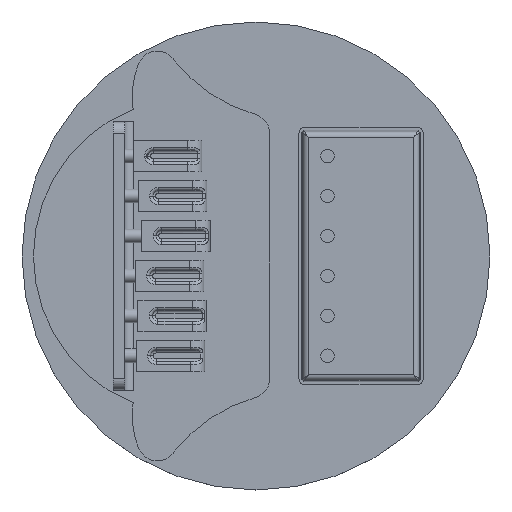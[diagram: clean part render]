
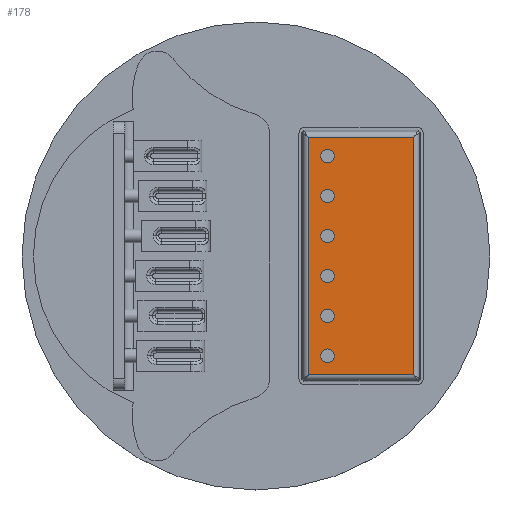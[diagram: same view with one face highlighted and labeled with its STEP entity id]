
A CAD part, top view. The second image highlights one B-rep face of the part: STEP entity #178.
In plain terms, the highlighted planar face has unit normal (0, 0, 1).
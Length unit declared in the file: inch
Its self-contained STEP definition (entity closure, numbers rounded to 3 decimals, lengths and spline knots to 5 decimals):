
#35 = DIRECTION ( 'NONE',  ( 0., 0., 1. ) ) ;
#133 = EDGE_LOOP ( 'NONE', ( #573, #3216, #6700, #1994 ) ) ;
#178 = ADVANCED_FACE ( 'NONE', ( #6473, #1285, #1166, #2537, #6802, #8448, #5037 ), #4606, .T. ) ;
#198 = DIRECTION ( 'NONE',  ( 1., 0., 0. ) ) ;
#248 = AXIS2_PLACEMENT_3D ( 'NONE', #3702, #6252, #2282 ) ;
#262 = CARTESIAN_POINT ( 'NONE',  ( 0.05448, 1.36869, 0.25 ) ) ;
#270 = CARTESIAN_POINT ( 'NONE',  ( 0.05448, 1.36869, 0.25 ) ) ;
#295 = CARTESIAN_POINT ( 'NONE',  ( 0.05448, 0.93119, 0.25 ) ) ;
#326 = VERTEX_POINT ( 'NONE', #5420 ) ;
#339 = VERTEX_POINT ( 'NONE', #2686 ) ;
#375 = VERTEX_POINT ( 'NONE', #2835 ) ;
#399 = CARTESIAN_POINT ( 'NONE',  ( 0.12948, -0.38131, 0.25 ) ) ;
#484 = CARTESIAN_POINT ( 'NONE',  ( -0.02052, -0.81881, 0.25 ) ) ;
#555 = CARTESIAN_POINT ( 'NONE',  ( 0.99705, 1.57627, 0.25 ) ) ;
#557 = DIRECTION ( 'NONE',  ( 1., 0., 0. ) ) ;
#563 = DIRECTION ( 'NONE',  ( 1., 0., 0. ) ) ;
#573 = ORIENTED_EDGE ( 'NONE', *, *, #5916, .T. ) ;
#608 = CIRCLE ( 'NONE', #4228, 0.075 ) ;
#612 = DIRECTION ( 'NONE',  ( 1., 0., 0. ) ) ;
#619 = EDGE_CURVE ( 'NONE', #375, #3455, #6889, .T. ) ;
#675 = ORIENTED_EDGE ( 'NONE', *, *, #4061, .F. ) ;
#853 = LINE ( 'NONE', #7019, #2427 ) ;
#900 = DIRECTION ( 'NONE',  ( 0., 0., 1. ) ) ;
#936 = CIRCLE ( 'NONE', #7269, 0.075 ) ;
#962 = AXIS2_PLACEMENT_3D ( 'NONE', #7861, #6599, #563 ) ;
#970 = AXIS2_PLACEMENT_3D ( 'NONE', #295, #3519, #2222 ) ;
#1030 = CARTESIAN_POINT ( 'NONE',  ( -0.1531, -1.06881, 0.25 ) ) ;
#1075 = EDGE_CURVE ( 'NONE', #4920, #5899, #2942, .T. ) ;
#1166 = FACE_BOUND ( 'NONE', #6396, .T. ) ;
#1285 = FACE_BOUND ( 'NONE', #4091, .T. ) ;
#1312 = AXIS2_PLACEMENT_3D ( 'NONE', #4282, #2925, #198 ) ;
#1438 = EDGE_CURVE ( 'NONE', #2699, #4563, #853, .T. ) ;
#1525 = DIRECTION ( 'NONE',  ( 1., 0., 0. ) ) ;
#1552 = CARTESIAN_POINT ( 'NONE',  ( 0.12948, 0.49369, 0.25 ) ) ;
#1557 = EDGE_LOOP ( 'NONE', ( #2952, #8275 ) ) ;
#1602 = EDGE_LOOP ( 'NONE', ( #7059, #8027 ) ) ;
#1684 = EDGE_CURVE ( 'NONE', #2190, #339, #4497, .T. ) ;
#1711 = VERTEX_POINT ( 'NONE', #7149 ) ;
#1739 = CIRCLE ( 'NONE', #3734, 0.075 ) ;
#1766 = CIRCLE ( 'NONE', #2501, 0.075 ) ;
#1793 = CARTESIAN_POINT ( 'NONE',  ( -0.02052, 1.36869, 0.25 ) ) ;
#1874 = DIRECTION ( 'NONE',  ( 1., 0., 0. ) ) ;
#1913 = ORIENTED_EDGE ( 'NONE', *, *, #3463, .F. ) ;
#1994 = ORIENTED_EDGE ( 'NONE', *, *, #3932, .T. ) ;
#2154 = DIRECTION ( 'NONE',  ( 0., 0., 1. ) ) ;
#2190 = VERTEX_POINT ( 'NONE', #484 ) ;
#2222 = DIRECTION ( 'NONE',  ( 1., 0., 0. ) ) ;
#2265 = CIRCLE ( 'NONE', #970, 0.075 ) ;
#2282 = DIRECTION ( 'NONE',  ( 1., 0., 0. ) ) ;
#2427 = VECTOR ( 'NONE', #3044, 39.37008 ) ;
#2453 = AXIS2_PLACEMENT_3D ( 'NONE', #8422, #2514, #557 ) ;
#2460 = EDGE_LOOP ( 'NONE', ( #5301, #3517 ) ) ;
#2501 = AXIS2_PLACEMENT_3D ( 'NONE', #262, #2154, #2824 ) ;
#2514 = DIRECTION ( 'NONE',  ( 0., 0., 1. ) ) ;
#2537 = FACE_BOUND ( 'NONE', #2460, .T. ) ;
#2561 = DIRECTION ( 'NONE',  ( -1., 0., 0. ) ) ;
#2686 = CARTESIAN_POINT ( 'NONE',  ( 0.12948, -0.81881, 0.25 ) ) ;
#2699 = VERTEX_POINT ( 'NONE', #6263 ) ;
#2705 = DIRECTION ( 'NONE',  ( 0., 0., 1. ) ) ;
#2721 = EDGE_CURVE ( 'NONE', #6667, #2699, #7281, .T. ) ;
#2824 = DIRECTION ( 'NONE',  ( 1., 0., 0. ) ) ;
#2835 = CARTESIAN_POINT ( 'NONE',  ( -0.02052, 0.49369, 0.25 ) ) ;
#2910 = CIRCLE ( 'NONE', #4891, 0.075 ) ;
#2925 = DIRECTION ( 'NONE',  ( 0., 0., 1. ) ) ;
#2942 = CIRCLE ( 'NONE', #6315, 0.075 ) ;
#2952 = ORIENTED_EDGE ( 'NONE', *, *, #7277, .F. ) ;
#2994 = EDGE_CURVE ( 'NONE', #4255, #8558, #1766, .T. ) ;
#3044 = DIRECTION ( 'NONE',  ( 1., 0., 0. ) ) ;
#3216 = ORIENTED_EDGE ( 'NONE', *, *, #2721, .T. ) ;
#3294 = CARTESIAN_POINT ( 'NONE',  ( -0.02052, -0.38131, 0.25 ) ) ;
#3305 = CARTESIAN_POINT ( 'NONE',  ( 0.05448, 0.05619, 0.25 ) ) ;
#3335 = DIRECTION ( 'NONE',  ( 0., 0., 1. ) ) ;
#3356 = VERTEX_POINT ( 'NONE', #7254 ) ;
#3455 = VERTEX_POINT ( 'NONE', #1552 ) ;
#3463 = EDGE_CURVE ( 'NONE', #339, #2190, #936, .T. ) ;
#3501 = EDGE_CURVE ( 'NONE', #3455, #375, #7484, .T. ) ;
#3514 = EDGE_LOOP ( 'NONE', ( #6243, #1913 ) ) ;
#3517 = ORIENTED_EDGE ( 'NONE', *, *, #3501, .F. ) ;
#3519 = DIRECTION ( 'NONE',  ( 0., 0., 1. ) ) ;
#3542 = DIRECTION ( 'NONE',  ( 0., 0., 1. ) ) ;
#3620 = DIRECTION ( 'NONE',  ( 1., 0., 0. ) ) ;
#3657 = EDGE_CURVE ( 'NONE', #5899, #4920, #2910, .T. ) ;
#3702 = CARTESIAN_POINT ( 'NONE',  ( 0.05448, 0.49369, 0.25 ) ) ;
#3734 = AXIS2_PLACEMENT_3D ( 'NONE', #4019, #35, #7289 ) ;
#3932 = EDGE_CURVE ( 'NONE', #4563, #4681, #6436, .T. ) ;
#4019 = CARTESIAN_POINT ( 'NONE',  ( 0.05448, 0.93119, 0.25 ) ) ;
#4049 = CARTESIAN_POINT ( 'NONE',  ( 0.99705, 1.61869, 0.25 ) ) ;
#4061 = EDGE_CURVE ( 'NONE', #3356, #1711, #6230, .T. ) ;
#4091 = EDGE_LOOP ( 'NONE', ( #7240, #5947 ) ) ;
#4228 = AXIS2_PLACEMENT_3D ( 'NONE', #3305, #3335, #5931 ) ;
#4255 = VERTEX_POINT ( 'NONE', #4986 ) ;
#4282 = CARTESIAN_POINT ( 'NONE',  ( 0.05448, 0.49369, 0.25 ) ) ;
#4497 = CIRCLE ( 'NONE', #2453, 0.075 ) ;
#4504 = EDGE_CURVE ( 'NONE', #8558, #4255, #7785, .T. ) ;
#4508 = CARTESIAN_POINT ( 'NONE',  ( -0.02052, 0.93119, 0.25 ) ) ;
#4563 = VERTEX_POINT ( 'NONE', #6246 ) ;
#4584 = EDGE_CURVE ( 'NONE', #326, #7544, #1739, .T. ) ;
#4599 = EDGE_CURVE ( 'NONE', #1711, #3356, #608, .T. ) ;
#4606 = PLANE ( 'NONE',  #962 ) ;
#4679 = VECTOR ( 'NONE', #7382, 39.37008 ) ;
#4681 = VERTEX_POINT ( 'NONE', #555 ) ;
#4708 = CARTESIAN_POINT ( 'NONE',  ( 0.05448, -0.38131, 0.25 ) ) ;
#4891 = AXIS2_PLACEMENT_3D ( 'NONE', #6431, #5823, #1874 ) ;
#4919 = DIRECTION ( 'NONE',  ( 1., 0., 0. ) ) ;
#4920 = VERTEX_POINT ( 'NONE', #399 ) ;
#4986 = CARTESIAN_POINT ( 'NONE',  ( 0.12948, 1.36869, 0.25 ) ) ;
#5037 = FACE_OUTER_BOUND ( 'NONE', #133, .T. ) ;
#5065 = AXIS2_PLACEMENT_3D ( 'NONE', #270, #900, #4919 ) ;
#5081 = VECTOR ( 'NONE', #2561, 39.37008 ) ;
#5301 = ORIENTED_EDGE ( 'NONE', *, *, #619, .F. ) ;
#5420 = CARTESIAN_POINT ( 'NONE',  ( 0.12948, 0.93119, 0.25 ) ) ;
#5519 = ORIENTED_EDGE ( 'NONE', *, *, #4599, .F. ) ;
#5814 = CARTESIAN_POINT ( 'NONE',  ( -0.1531, 1.57627, 0.25 ) ) ;
#5823 = DIRECTION ( 'NONE',  ( 0., 0., 1. ) ) ;
#5899 = VERTEX_POINT ( 'NONE', #3294 ) ;
#5916 = EDGE_CURVE ( 'NONE', #4681, #6667, #6222, .T. ) ;
#5931 = DIRECTION ( 'NONE',  ( 1., 0., 0. ) ) ;
#5947 = ORIENTED_EDGE ( 'NONE', *, *, #1075, .F. ) ;
#6210 = DIRECTION ( 'NONE',  ( 0., 0., 1. ) ) ;
#6222 = LINE ( 'NONE', #7871, #5081 ) ;
#6230 = CIRCLE ( 'NONE', #7667, 0.075 ) ;
#6243 = ORIENTED_EDGE ( 'NONE', *, *, #1684, .F. ) ;
#6246 = CARTESIAN_POINT ( 'NONE',  ( 0.99705, -1.02638, 0.25 ) ) ;
#6252 = DIRECTION ( 'NONE',  ( 0., 0., 1. ) ) ;
#6263 = CARTESIAN_POINT ( 'NONE',  ( -0.1531, -1.02638, 0.25 ) ) ;
#6315 = AXIS2_PLACEMENT_3D ( 'NONE', #4708, #2705, #612 ) ;
#6342 = DIRECTION ( 'NONE',  ( 0., -1., 0. ) ) ;
#6396 = EDGE_LOOP ( 'NONE', ( #5519, #675 ) ) ;
#6431 = CARTESIAN_POINT ( 'NONE',  ( 0.05448, -0.38131, 0.25 ) ) ;
#6436 = LINE ( 'NONE', #4049, #4679 ) ;
#6473 = FACE_BOUND ( 'NONE', #3514, .T. ) ;
#6599 = DIRECTION ( 'NONE',  ( 0., 0., 1. ) ) ;
#6667 = VERTEX_POINT ( 'NONE', #5814 ) ;
#6700 = ORIENTED_EDGE ( 'NONE', *, *, #1438, .T. ) ;
#6802 = FACE_BOUND ( 'NONE', #1557, .T. ) ;
#6818 = CARTESIAN_POINT ( 'NONE',  ( 0.05448, -0.81881, 0.25 ) ) ;
#6889 = CIRCLE ( 'NONE', #248, 0.075 ) ;
#7019 = CARTESIAN_POINT ( 'NONE',  ( 1.03948, -1.02638, 0.25 ) ) ;
#7059 = ORIENTED_EDGE ( 'NONE', *, *, #4504, .F. ) ;
#7149 = CARTESIAN_POINT ( 'NONE',  ( -0.02052, 0.05619, 0.25 ) ) ;
#7240 = ORIENTED_EDGE ( 'NONE', *, *, #3657, .F. ) ;
#7254 = CARTESIAN_POINT ( 'NONE',  ( 0.12948, 0.05619, 0.25 ) ) ;
#7269 = AXIS2_PLACEMENT_3D ( 'NONE', #6818, #6210, #1525 ) ;
#7277 = EDGE_CURVE ( 'NONE', #7544, #326, #2265, .T. ) ;
#7281 = LINE ( 'NONE', #1030, #8524 ) ;
#7289 = DIRECTION ( 'NONE',  ( 1., 0., 0. ) ) ;
#7382 = DIRECTION ( 'NONE',  ( 0., 1., 0. ) ) ;
#7484 = CIRCLE ( 'NONE', #1312, 0.075 ) ;
#7497 = CARTESIAN_POINT ( 'NONE',  ( 0.05448, 0.05619, 0.25 ) ) ;
#7544 = VERTEX_POINT ( 'NONE', #4508 ) ;
#7667 = AXIS2_PLACEMENT_3D ( 'NONE', #7497, #3542, #3620 ) ;
#7785 = CIRCLE ( 'NONE', #5065, 0.075 ) ;
#7861 = CARTESIAN_POINT ( 'NONE',  ( -0.19552, -1.06881, 0.25 ) ) ;
#7871 = CARTESIAN_POINT ( 'NONE',  ( -0.19552, 1.57627, 0.25 ) ) ;
#8027 = ORIENTED_EDGE ( 'NONE', *, *, #2994, .F. ) ;
#8275 = ORIENTED_EDGE ( 'NONE', *, *, #4584, .F. ) ;
#8422 = CARTESIAN_POINT ( 'NONE',  ( 0.05448, -0.81881, 0.25 ) ) ;
#8448 = FACE_BOUND ( 'NONE', #1602, .T. ) ;
#8524 = VECTOR ( 'NONE', #6342, 39.37008 ) ;
#8558 = VERTEX_POINT ( 'NONE', #1793 ) ;
